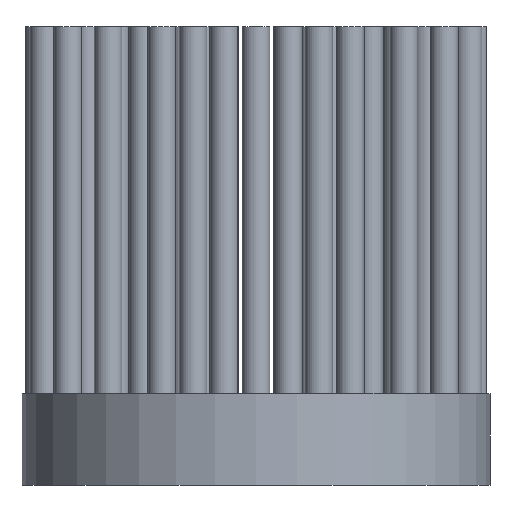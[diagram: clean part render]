
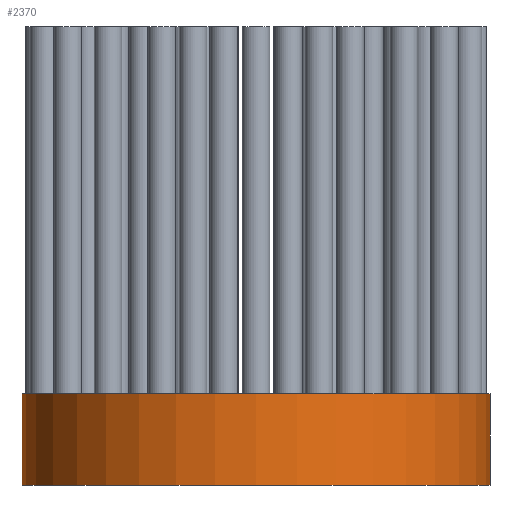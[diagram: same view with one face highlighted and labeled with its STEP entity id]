
A CAD part, front view. The second image highlights one B-rep face of the part: STEP entity #2370.
In plain terms, the highlighted cylindrical face has radius 25.5 mm (diameter 51 mm), a partial arc.
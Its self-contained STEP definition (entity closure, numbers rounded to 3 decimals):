
#88 = ORIENTED_EDGE ( 'NONE', *, *, #2417, .F. ) ;
#126 = ORIENTED_EDGE ( 'NONE', *, *, #2512, .F. ) ;
#166 = ORIENTED_EDGE ( 'NONE', *, *, #2482, .T. ) ;
#217 = ORIENTED_EDGE ( 'NONE', *, *, #2492, .F. ) ;
#224 = CARTESIAN_POINT ( 'NONE',  ( -25.5, 0., -10. ) ) ;
#571 = DIRECTION ( 'NONE',  ( 0., 0., 1. ) ) ;
#625 = DIRECTION ( 'NONE',  ( 0., 0., -1. ) ) ;
#634 = CARTESIAN_POINT ( 'NONE',  ( -25.5, 0., 0. ) ) ;
#774 = DIRECTION ( 'NONE',  ( -1., 0., 0. ) ) ;
#922 = CARTESIAN_POINT ( 'NONE',  ( 25.5, 0., 0. ) ) ;
#1108 = CARTESIAN_POINT ( 'NONE',  ( 0., 0., 60. ) ) ;
#1180 = DIRECTION ( 'NONE',  ( 0., 0., -1. ) ) ;
#1328 = CARTESIAN_POINT ( 'NONE',  ( 25.5, 0., 60. ) ) ;
#1333 = LINE ( 'NONE', #1328, #2905 ) ;
#1341 = CARTESIAN_POINT ( 'NONE',  ( -25.5, 0., 60. ) ) ;
#1352 = CARTESIAN_POINT ( 'NONE',  ( 0., 0., -10. ) ) ;
#1365 = LINE ( 'NONE', #1341, #2939 ) ;
#1381 = VERTEX_POINT ( 'NONE', #922 ) ;
#1429 = VERTEX_POINT ( 'NONE', #634 ) ;
#1551 = FACE_OUTER_BOUND ( 'NONE', #1887, .T. ) ;
#1633 = DIRECTION ( 'NONE',  ( -1., 0., 0. ) ) ;
#1847 = CARTESIAN_POINT ( 'NONE',  ( 25.5, 0., -10. ) ) ;
#1887 = EDGE_LOOP ( 'NONE', ( #88, #126, #166, #217 ) ) ;
#2033 = VERTEX_POINT ( 'NONE', #224 ) ;
#2081 = VERTEX_POINT ( 'NONE', #1847 ) ;
#2253 = CARTESIAN_POINT ( 'NONE',  ( 0., 0., 0. ) ) ;
#2370 = ADVANCED_FACE ( 'NONE', ( #1551 ), #3378, .T. ) ;
#2417 = EDGE_CURVE ( 'NONE', #1381, #2081, #1333, .T. ) ;
#2482 = EDGE_CURVE ( 'NONE', #1429, #2033, #1365, .T. ) ;
#2492 = EDGE_CURVE ( 'NONE', #2081, #2033, #3456, .T. ) ;
#2511 = AXIS2_PLACEMENT_3D ( 'NONE', #2253, #571, #2607 ) ;
#2512 = EDGE_CURVE ( 'NONE', #1429, #1381, #3375, .T. ) ;
#2607 = DIRECTION ( 'NONE',  ( 1., 0., 0. ) ) ;
#2664 = AXIS2_PLACEMENT_3D ( 'NONE', #1352, #3346, #1633 ) ;
#2905 = VECTOR ( 'NONE', #1180, 1000. ) ;
#2939 = VECTOR ( 'NONE', #3337, 1000. ) ;
#3337 = DIRECTION ( 'NONE',  ( 0., 0., -1. ) ) ;
#3346 = DIRECTION ( 'NONE',  ( 0., 0., -1. ) ) ;
#3348 = AXIS2_PLACEMENT_3D ( 'NONE', #1108, #625, #774 ) ;
#3375 = CIRCLE ( 'NONE', #2511, 25.5 ) ;
#3378 = CYLINDRICAL_SURFACE ( 'NONE', #3348, 25.5 ) ;
#3456 = CIRCLE ( 'NONE', #2664, 25.5 ) ;
